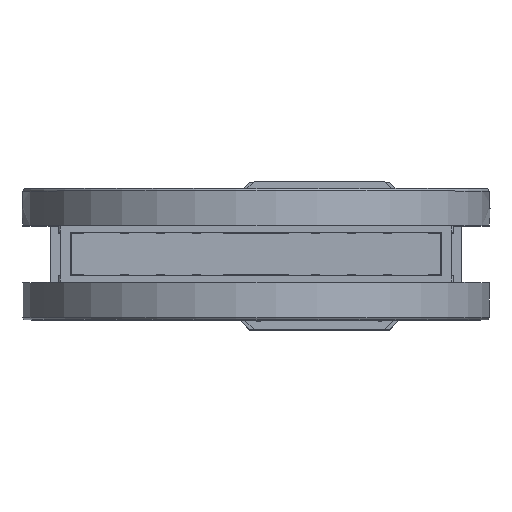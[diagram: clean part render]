
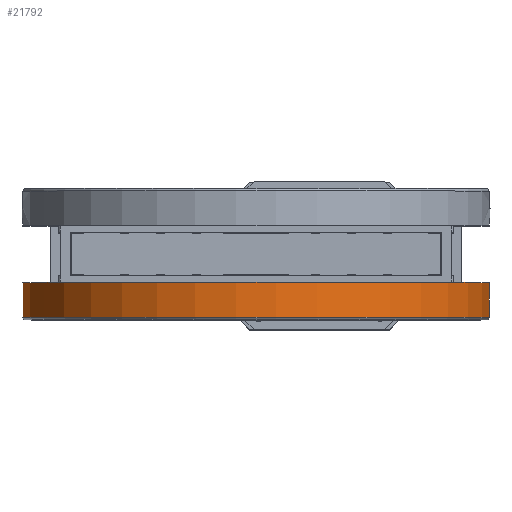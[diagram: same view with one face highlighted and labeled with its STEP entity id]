
A CAD part, top view. The second image highlights one B-rep face of the part: STEP entity #21792.
In plain terms, the highlighted cylindrical face has radius 142.5 mm (diameter 285 mm), a full revolution.
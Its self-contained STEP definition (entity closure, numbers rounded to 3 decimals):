
#21792=ADVANCED_FACE('BCT_REF_56374',(#24089,#24090),#22526,.T.);
#22526=CYLINDRICAL_SURFACE('',#53922,142.5);
#24089=FACE_BOUND('',#27433,.T.);
#24090=FACE_BOUND('',#27434,.T.);
#27433=EDGE_LOOP('',(#38365));
#27434=EDGE_LOOP('',(#38366));
#38365=ORIENTED_EDGE('',*,*,#48405,.F.);
#38366=ORIENTED_EDGE('',*,*,#48411,.T.);
#42827=VERTEX_POINT('',#82013);
#42833=VERTEX_POINT('',#82030);
#48405=EDGE_CURVE('',#42827,#42827,#50134,.T.);
#48411=EDGE_CURVE('',#42833,#42833,#50140,.T.);
#50134=CIRCLE('',#53909,142.5);
#50140=CIRCLE('',#53920,142.5);
#53909=AXIS2_PLACEMENT_3D('',#82012,#65026,#65027);
#53920=AXIS2_PLACEMENT_3D('',#82029,#65048,#65049);
#53922=AXIS2_PLACEMENT_3D('',#82032,#65052,#65053);
#65026=DIRECTION('',(0.,-1.,0.));
#65027=DIRECTION('',(0.259,0.,0.966));
#65048=DIRECTION('',(0.,-1.,0.));
#65049=DIRECTION('',(0.259,0.,0.966));
#65052=DIRECTION('',(0.,-1.,0.));
#65053=DIRECTION('',(0.259,0.,0.966));
#82012=CARTESIAN_POINT('',(0.,-38.425,412.));
#82013=CARTESIAN_POINT('',(36.882,-38.425,549.644));
#82029=CARTESIAN_POINT('',(0.,-17.225,412.));
#82030=CARTESIAN_POINT('',(36.882,-17.225,549.644));
#82032=CARTESIAN_POINT('',(0.,-39.925,412.));
